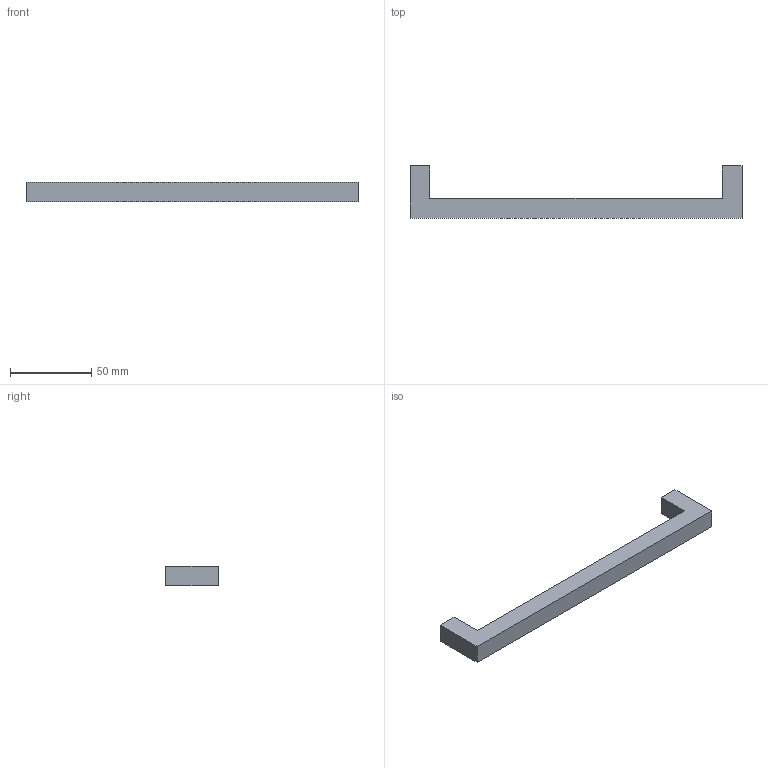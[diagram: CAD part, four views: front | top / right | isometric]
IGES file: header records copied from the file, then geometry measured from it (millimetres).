
Start section: Data from Parasolid IGES Translator 15.0.47, Copyright(c) 2006 Siemens P LM Software. All Rights Reserved.
Global section: file name: 9207356.igs; native system:  By UGS Corp.; preprocessor: XPlus GENERIC/IGES 3.0; author: Noname; organization: Noname; date: 20151215.135614; units: millimetre
Bounding box: 204 x 32 x 12 mm (x, y, z)
Surface area: 12251.3 mm2 (no closed solid volume)
Topology: 0 solids, 0 shells, 14 faces, 60 edges, 58 vertices
Faces by surface type: extrusion 12, revolution 2
